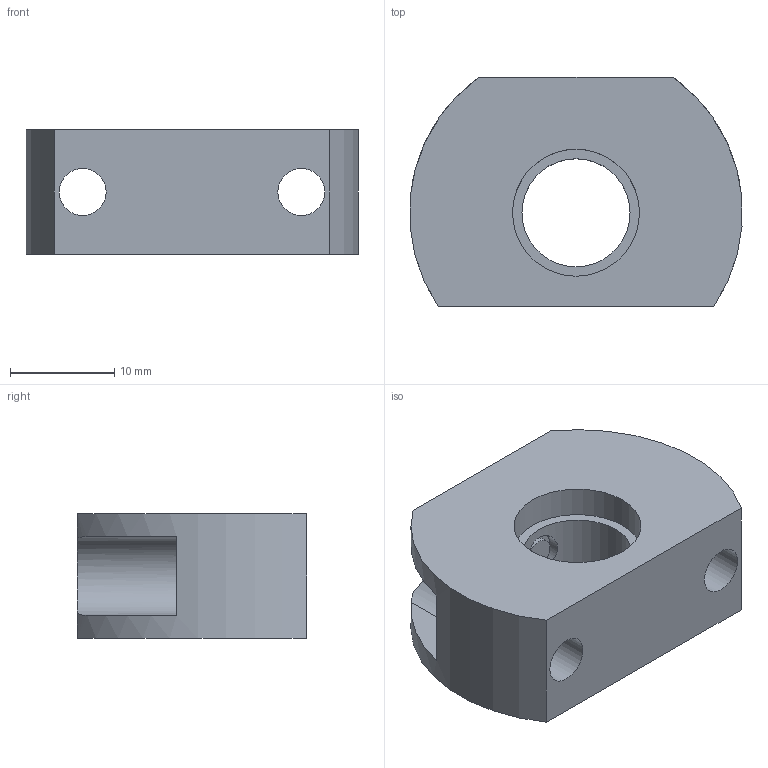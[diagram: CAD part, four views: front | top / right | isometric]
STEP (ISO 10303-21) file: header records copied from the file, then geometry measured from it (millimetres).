
FILE_DESCRIPTION( ( 'STEP AP203' ), '1' );
FILE_NAME( 'C:/Temp/Ganter_Step_05_03_2020/data/3_1/gn612n_1/gn612n_1_b/Stainless steel-Mounting block GN 612.1-M12x1,5-B-NI.stp', '2020-03-12T08:37:13', ( 'License CC BY-ND 4.0' ), ( 'CADENAS' ), ' ', 'PARTsolutions', ' ' );
FILE_SCHEMA( ( 'CONFIG_CONTROL_DESIGN' ) );
Length unit declared in the file: millimetre
Products named in the file (1): _Stainless steel-Mounting block GN 612.1-M12x1,5-B-NI
Bounding box: 31.89 x 22 x 12 mm (x, y, z)
Volume: 4977.5 mm3; surface area: 3310.2 mm2
Topology: 1 solids, 1 shells, 37 faces, 87 edges, 57 vertices
Faces by surface type: plane 23, cylinder 11, cone 3
Full cylindrical faces by diameter (mm): 3 x1, 4.134 x2, 4.5 x2, 7.6 x2, 10.376 x1, 12.2 x1
Entity records: 1104 total; most frequent: CARTESIAN_POINT 235, DIRECTION 174, ORIENTED_EDGE 146, EDGE_CURVE 73, AXIS2_PLACEMENT_3D 68, EDGE_LOOP 60, VERTEX_POINT 55, FACE_OUTER_BOUND 46
